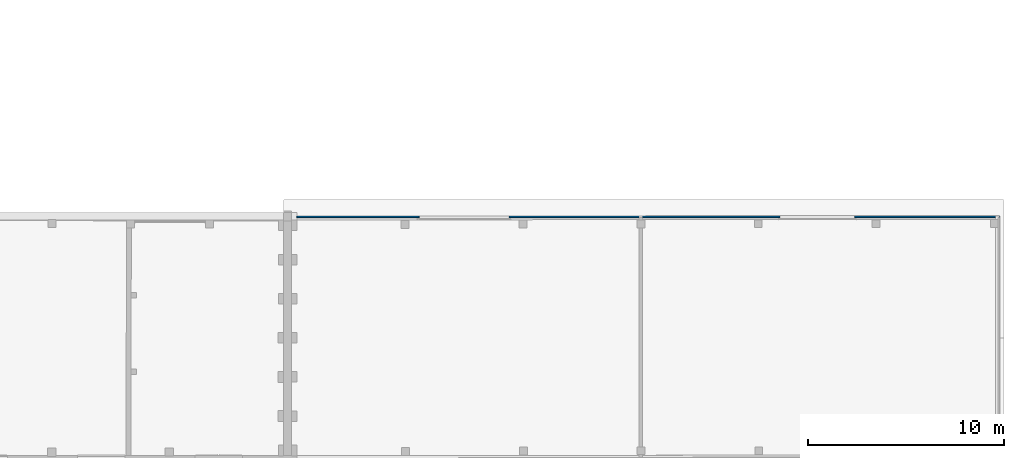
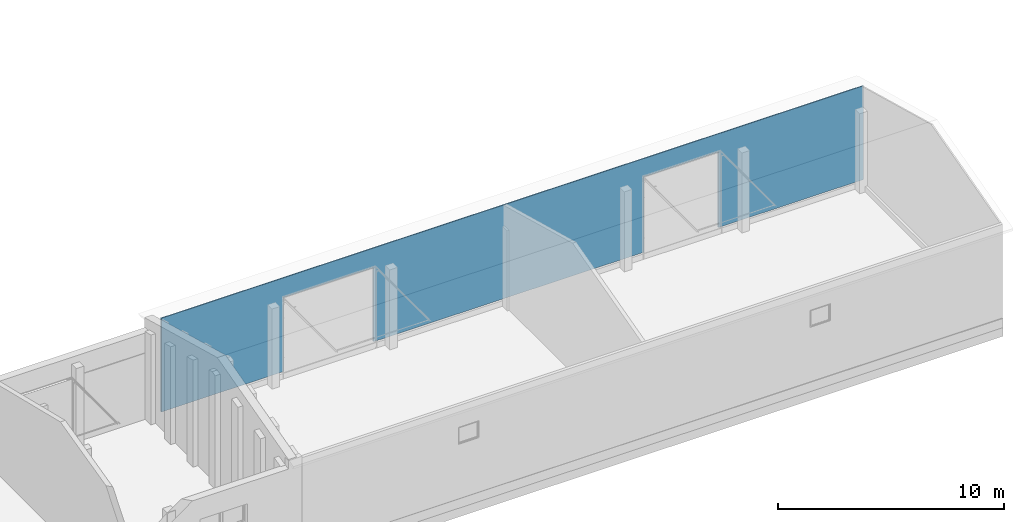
# One storey, part 167 of 301: 1 wall, 2 openings.
"""IFC2X3 building model written with IfcOpenShell, lengths in millimetres."""

from ifc_helpers import new_model, entity, si_unit, converted_unit, derived_unit, money_unit, direction, frame, origin_with_axes, place, context, subcontext, project, spatial, faceted_brep, material, type_object, element, save


model = new_model("IFC2X3")

# Units and contexts
model_context = context("Model", 3, precision=0.01, world=origin_with_axes(), true_north=direction((0.0, 1.0)))
body_context = subcontext(model_context, "Body", "Model", "MODEL_VIEW")
ifc_project = project(units=[si_unit("LENGTHUNIT", "METRE", prefix="MILLI"), si_unit("AREAUNIT", "SQUARE_METRE"), si_unit("VOLUMEUNIT", "CUBIC_METRE"), converted_unit("PLANEANGLEUNIT", "DEGREE", entity("IfcPlaneAngleMeasure", 0.0174532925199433), si_unit("PLANEANGLEUNIT", "RADIAN"), dimensions=[0, 0, 0, 0, 0, 0, 0]), money_unit("EUR"), converted_unit("TIMEUNIT", "Year", entity("IfcTimeMeasure", 31557600.0), si_unit("TIMEUNIT", "SECOND"), dimensions=[0, 0, 1, 0, 0, 0, 0]), si_unit("MASSUNIT", "GRAM", prefix="KILO"), si_unit("THERMODYNAMICTEMPERATUREUNIT", "DEGREE_CELSIUS"), si_unit("LUMINOUSINTENSITYUNIT", "LUMEN"), si_unit("ENERGYUNIT", "JOULE", prefix="MEGA"), derived_unit("THERMALCONDUCTANCEUNIT", [(si_unit("POWERUNIT", "WATT"), 1), (si_unit("LENGTHUNIT", "METRE"), -1), (si_unit("THERMODYNAMICTEMPERATUREUNIT", "KELVIN"), -1)]), derived_unit("SPECIFICHEATCAPACITYUNIT", [(si_unit("ENERGYUNIT", "JOULE"), 1), (si_unit("MASSUNIT", "GRAM", prefix="KILO"), -1), (si_unit("THERMODYNAMICTEMPERATUREUNIT", "KELVIN"), -1)]), derived_unit("MASSDENSITYUNIT", [(si_unit("MASSUNIT", "GRAM", prefix="KILO"), 1), (si_unit("VOLUMEUNIT", "CUBIC_METRE"), -1)])], contexts=[model_context])

# Site, building, storey
site_placement = place(None, frame((0.0, 0.0, 8650.0), z_axis=(0.0, 0.0, 1.0), x_axis=(1.0, 0.0, 0.0)))
site = spatial("IfcSite", under=ifc_project, at=site_placement, Name="43301:001:0844", CompositionType="ELEMENT")
building_placement = place(site_placement, origin_with_axes())
building = spatial("IfcBuilding", under=site, at=building_placement, Name="Kuressaare Ametikooli tuulikute mehaanikute õppekorpus", CompositionType="ELEMENT")
storey_placement = place(building_placement, origin_with_axes())
storey = spatial("IfcBuildingStorey", under=building, at=storey_placement, Name="1.korrus", CompositionType="ELEMENT", Elevation=0.0)

# Wall, openings
ifc_material = material(Name="GENEERILINE - KONSTRUKTRIOON")
wall_type = type_object("IfcWallType", Name="GENEERILINE - KONSTRUKTRIOON 80", PredefinedType="NOTDEFINED")
wall_placement = place(storey_placement, frame((236876.0833740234, 26042.5609949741, -30.0), z_axis=(0.0, 0.0, 1.0), x_axis=(-1.0, 0.0, 0.0)))
wall = element("IfcWall", 1, at=wall_placement, inside=storey, type_object=wall_type, material=ifc_material, Name="VS-XX", context=body_context, shape_type="Brep", body=[
    faceted_brep([(35922.34529146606, 0.0, 5049.999999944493), (0.0, 0.0, 5049.999999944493), (0.0, 0.0, 0.0), (7417.839355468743, 0.0, 0.0), (7417.839355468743, 0.0, 4080.0), (11227.83935546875, 0.0, 4080.0), (11227.83935546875, 0.0, 0.0), (25067.65715420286, 0.0, 0.0), (25067.65715420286, 0.0, 4010.0), (29667.65715420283, 0.0, 4010.0), (29667.65715420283, 0.0, 0.0), (35922.34529146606, 0.0, 0.0), (0.0, 80.00000000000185, 5071.649241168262), (35922.34529146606, 79.9999999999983, 5071.649241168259), (0.0, 79.9999999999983, 0.0), (7417.839355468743, 79.9999999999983, 0.0), (7417.839355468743, 80.00000000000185, 4080.0), (11227.83935546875, 80.00000000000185, 4080.0), (11227.83935546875, 79.9999999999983, 0.0), (25067.65715420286, 79.9999999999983, 0.0), (25067.65715420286, 80.00000000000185, 4010.0), (29667.65715420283, 80.00000000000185, 4010.0), (29667.65715420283, 79.9999999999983, 0.0), (35922.34529146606, 79.9999999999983, 0.0)], [[[0, 1, 2, 3, 4, 5, 6, 7, 8, 9, 10, 11]], [[12, 1, 0, 13]], [[1, 12, 14, 2]], [[15, 3, 2, 14]], [[4, 3, 15, 16]], [[5, 4, 16, 17]], [[6, 5, 17, 18]], [[18, 19, 7, 6]], [[20, 8, 7, 19]], [[21, 9, 8, 20]], [[22, 10, 9, 21]], [[11, 10, 22, 23]], [[13, 0, 11, 23]], [[12, 13, 23, 22, 21, 20, 19, 18, 17, 16, 15, 14]]]),
])
opening_1_placement = place(wall_placement, frame((9322.839355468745, 0.0, -260.0000000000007), z_axis=(0.0, 0.0, 1.0), x_axis=(1.0, 0.0, 0.0)))
element("IfcOpeningElement", 2, at=opening_1_placement, cuts=wall, context=body_context, shape_type="Brep", body=[
    faceted_brep([(1905.000000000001, 81.00000000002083, 4340.0), (1905.000000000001, 81.00000000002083, 0.0), (-1905.000000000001, 81.00000000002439, 0.0), (-1905.000000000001, 81.00000000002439, 4340.0), (1905.000000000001, -1.00000000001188, 4340.0), (1905.000000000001, -1.00000000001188, 0.0), (-1905.000000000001, -1.000000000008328, 0.0), (-1905.000000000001, -1.000000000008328, 4340.0)], [[[0, 1, 2, 3]], [[4, 5, 1, 0]], [[5, 6, 2, 1]], [[6, 7, 3, 2]], [[7, 4, 0, 3]], [[6, 5, 4, 7]]]),
])
opening_2_placement = place(wall_placement, frame((27367.65715420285, 0.0, -270.0000000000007), z_axis=(0.0, 0.0, 1.0), x_axis=(1.0, 0.0, 0.0)))
element("IfcOpeningElement", 3, at=opening_2_placement, cuts=wall, context=body_context, shape_type="Brep", body=[
    faceted_brep([(2299.999999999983, 81.00000000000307, 4280.0), (2299.999999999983, 81.00000000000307, 0.0), (-2299.999999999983, 81.00000000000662, 0.0), (-2299.999999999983, 81.00000000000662, 4280.0), (2299.999999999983, -1.000000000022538, 4280.0), (2299.999999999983, -1.000000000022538, 0.0), (-2299.999999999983, -1.000000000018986, 0.0), (-2299.999999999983, -1.000000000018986, 4280.0)], [[[0, 1, 2, 3]], [[4, 5, 1, 0]], [[5, 6, 2, 1]], [[6, 7, 3, 2]], [[7, 4, 0, 3]], [[6, 5, 4, 7]]]),
])

save(model, "model.ifc")
